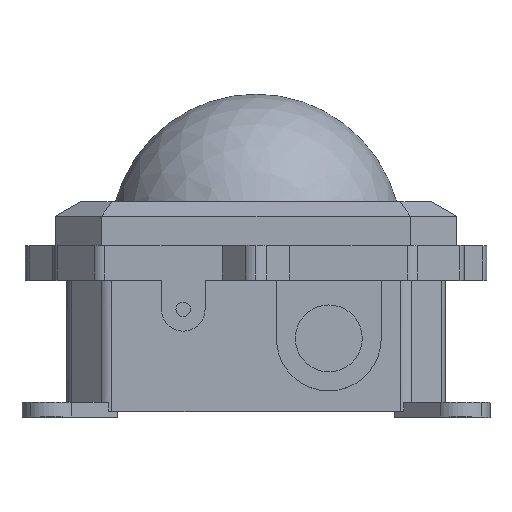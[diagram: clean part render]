
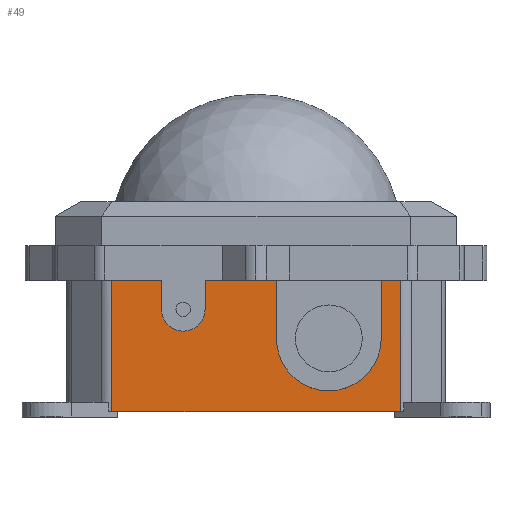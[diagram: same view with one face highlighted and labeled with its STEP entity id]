
A CAD part, top view. The second image highlights one B-rep face of the part: STEP entity #49.
In plain terms, the highlighted planar face has unit normal (0, 0, 1).
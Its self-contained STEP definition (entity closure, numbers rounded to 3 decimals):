
#49 = ADVANCED_FACE ( 'NONE', ( #2496 ), #2999, .F. ) ;
#425 = EDGE_CURVE ( 'NONE', #675, #673, #3884, .T. ) ;
#429 = EDGE_CURVE ( 'NONE', #705, #709, #3890, .T. ) ;
#449 = EDGE_CURVE ( 'NONE', #726, #725, #3923, .T. ) ;
#491 = EDGE_CURVE ( 'NONE', #675, #759, #3995, .T. ) ;
#492 = EDGE_CURVE ( 'NONE', #767, #673, #3997, .T. ) ;
#493 = EDGE_CURVE ( 'NONE', #769, #767, #3999, .T. ) ;
#494 = EDGE_CURVE ( 'NONE', #726, #769, #3993, .T. ) ;
#495 = EDGE_CURVE ( 'NONE', #768, #725, #4001, .T. ) ;
#496 = EDGE_CURVE ( 'NONE', #771, #768, #4004, .T. ) ;
#497 = EDGE_CURVE ( 'NONE', #771, #705, #4006, .T. ) ;
#498 = EDGE_CURVE ( 'NONE', #764, #709, #4008, .T. ) ;
#499 = EDGE_CURVE ( 'NONE', #759, #764, #4002, .T. ) ;
#673 = VERTEX_POINT ( 'NONE', #4740 ) ;
#675 = VERTEX_POINT ( 'NONE', #4742 ) ;
#705 = VERTEX_POINT ( 'NONE', #4772 ) ;
#709 = VERTEX_POINT ( 'NONE', #4776 ) ;
#725 = VERTEX_POINT ( 'NONE', #4792 ) ;
#726 = VERTEX_POINT ( 'NONE', #4793 ) ;
#759 = VERTEX_POINT ( 'NONE', #4826 ) ;
#764 = VERTEX_POINT ( 'NONE', #4831 ) ;
#767 = VERTEX_POINT ( 'NONE', #4834 ) ;
#768 = VERTEX_POINT ( 'NONE', #4835 ) ;
#769 = VERTEX_POINT ( 'NONE', #4836 ) ;
#771 = VERTEX_POINT ( 'NONE', #4838 ) ;
#889 = EDGE_LOOP ( 'NONE', ( #965, #966, #967, #968, #969, #970, #971, #972, #973, #974, #975, #976 ) ) ;
#965 = ORIENTED_EDGE ( 'NONE', *, *, #491, .F. ) ;
#966 = ORIENTED_EDGE ( 'NONE', *, *, #425, .T. ) ;
#967 = ORIENTED_EDGE ( 'NONE', *, *, #492, .F. ) ;
#968 = ORIENTED_EDGE ( 'NONE', *, *, #493, .F. ) ;
#969 = ORIENTED_EDGE ( 'NONE', *, *, #494, .F. ) ;
#970 = ORIENTED_EDGE ( 'NONE', *, *, #449, .T. ) ;
#971 = ORIENTED_EDGE ( 'NONE', *, *, #495, .F. ) ;
#972 = ORIENTED_EDGE ( 'NONE', *, *, #496, .F. ) ;
#973 = ORIENTED_EDGE ( 'NONE', *, *, #497, .T. ) ;
#974 = ORIENTED_EDGE ( 'NONE', *, *, #429, .T. ) ;
#975 = ORIENTED_EDGE ( 'NONE', *, *, #498, .F. ) ;
#976 = ORIENTED_EDGE ( 'NONE', *, *, #499, .F. ) ;
#2496 = FACE_OUTER_BOUND ( 'NONE', #889, .T. ) ;
#2763 = AXIS2_PLACEMENT_3D ( 'NONE', #2995, #3003, #3004 ) ;
#2995 = CARTESIAN_POINT ( 'NONE',  ( -46.379, -25.63, 58.67 ) ) ;
#2999 = PLANE ( 'NONE',  #2763 ) ;
#3003 = DIRECTION ( 'NONE',  ( 0., 0., -1. ) ) ;
#3004 = DIRECTION ( 'NONE',  ( -1., 0., 0. ) ) ;
#3456 = AXIS2_PLACEMENT_3D ( 'NONE', #4216, #4217, #4218 ) ;
#3457 = AXIS2_PLACEMENT_3D ( 'NONE', #4230, #4231, #4232 ) ;
#3766 = CARTESIAN_POINT ( 'NONE',  ( -46.379, 19.37, 58.67 ) ) ;
#3768 = DIRECTION ( 'NONE',  ( -1., 0., 0. ) ) ;
#3770 = CARTESIAN_POINT ( 'NONE',  ( -46.379, 19.37, 58.67 ) ) ;
#3774 = DIRECTION ( 'NONE',  ( -1., 0., 0. ) ) ;
#3884 = LINE ( 'NONE', #3766, #3887 ) ;
#3887 = VECTOR ( 'NONE', #3768, 1000. ) ;
#3890 = LINE ( 'NONE', #3770, #3895 ) ;
#3895 = VECTOR ( 'NONE', #3774, 1000. ) ;
#3923 = LINE ( 'NONE', #4110, #3927 ) ;
#3927 = VECTOR ( 'NONE', #4108, 1000. ) ;
#3993 = LINE ( 'NONE', #4215, #4003 ) ;
#3995 = LINE ( 'NONE', #4210, #3998 ) ;
#3997 = LINE ( 'NONE', #4212, #4000 ) ;
#3998 = VECTOR ( 'NONE', #4211, 1000. ) ;
#3999 = CIRCLE ( 'NONE', #3456, 7.5 ) ;
#4000 = VECTOR ( 'NONE', #4213, 1000. ) ;
#4001 = LINE ( 'NONE', #4214, #4005 ) ;
#4002 = CIRCLE ( 'NONE', #3457, 18. ) ;
#4003 = VECTOR ( 'NONE', #4207, 1000. ) ;
#4004 = LINE ( 'NONE', #4220, #4007 ) ;
#4005 = VECTOR ( 'NONE', #4219, 1000. ) ;
#4006 = LINE ( 'NONE', #4222, #4009 ) ;
#4007 = VECTOR ( 'NONE', #4221, 1000. ) ;
#4008 = LINE ( 'NONE', #4224, #4011 ) ;
#4009 = VECTOR ( 'NONE', #4223, 1000. ) ;
#4011 = VECTOR ( 'NONE', #4226, 1000. ) ;
#4108 = DIRECTION ( 'NONE',  ( -1., 0., 0. ) ) ;
#4110 = CARTESIAN_POINT ( 'NONE',  ( -46.379, 19.37, 58.67 ) ) ;
#4207 = DIRECTION ( 'NONE',  ( 0., -1., 0. ) ) ;
#4210 = CARTESIAN_POINT ( 'NONE',  ( 10.15, -25.63, 58.67 ) ) ;
#4211 = DIRECTION ( 'NONE',  ( 0., -1., 0. ) ) ;
#4212 = CARTESIAN_POINT ( 'NONE',  ( -14.35, 19.37, 58.67 ) ) ;
#4213 = DIRECTION ( 'NONE',  ( 0., 1., 0. ) ) ;
#4214 = CARTESIAN_POINT ( 'NONE',  ( -46.379, -25.63, 58.67 ) ) ;
#4215 = CARTESIAN_POINT ( 'NONE',  ( -29.35, 19.37, 58.67 ) ) ;
#4216 = CARTESIAN_POINT ( 'NONE',  ( -21.85, 9.37, 58.67 ) ) ;
#4217 = DIRECTION ( 'NONE',  ( 0., 0., 1. ) ) ;
#4218 = DIRECTION ( 'NONE',  ( -1., 0., 0. ) ) ;
#4219 = DIRECTION ( 'NONE',  ( 0., 1., 0. ) ) ;
#4220 = CARTESIAN_POINT ( 'NONE',  ( -46.379, -25.63, 58.67 ) ) ;
#4221 = DIRECTION ( 'NONE',  ( -1., 0., 0. ) ) ;
#4222 = CARTESIAN_POINT ( 'NONE',  ( 52.829, -25.63, 58.67 ) ) ;
#4223 = DIRECTION ( 'NONE',  ( 0., 1., 0. ) ) ;
#4224 = CARTESIAN_POINT ( 'NONE',  ( 46.15, -25.63, 58.67 ) ) ;
#4226 = DIRECTION ( 'NONE',  ( 0., 1., 0. ) ) ;
#4230 = CARTESIAN_POINT ( 'NONE',  ( 28.15, -0.63, 58.67 ) ) ;
#4231 = DIRECTION ( 'NONE',  ( 0., 0., 1. ) ) ;
#4232 = DIRECTION ( 'NONE',  ( -1., 0., 0. ) ) ;
#4740 = CARTESIAN_POINT ( 'NONE',  ( -14.35, 19.37, 58.67 ) ) ;
#4742 = CARTESIAN_POINT ( 'NONE',  ( 10.15, 19.37, 58.67 ) ) ;
#4772 = CARTESIAN_POINT ( 'NONE',  ( 52.829, 19.37, 58.67 ) ) ;
#4776 = CARTESIAN_POINT ( 'NONE',  ( 46.15, 19.37, 58.67 ) ) ;
#4792 = CARTESIAN_POINT ( 'NONE',  ( -46.379, 19.37, 58.67 ) ) ;
#4793 = CARTESIAN_POINT ( 'NONE',  ( -29.35, 19.37, 58.67 ) ) ;
#4826 = CARTESIAN_POINT ( 'NONE',  ( 10.15, -0.63, 58.67 ) ) ;
#4831 = CARTESIAN_POINT ( 'NONE',  ( 46.15, -0.63, 58.67 ) ) ;
#4834 = CARTESIAN_POINT ( 'NONE',  ( -14.35, 9.37, 58.67 ) ) ;
#4835 = CARTESIAN_POINT ( 'NONE',  ( -46.379, -25.63, 58.67 ) ) ;
#4836 = CARTESIAN_POINT ( 'NONE',  ( -29.35, 9.37, 58.67 ) ) ;
#4838 = CARTESIAN_POINT ( 'NONE',  ( 52.829, -25.63, 58.67 ) ) ;
